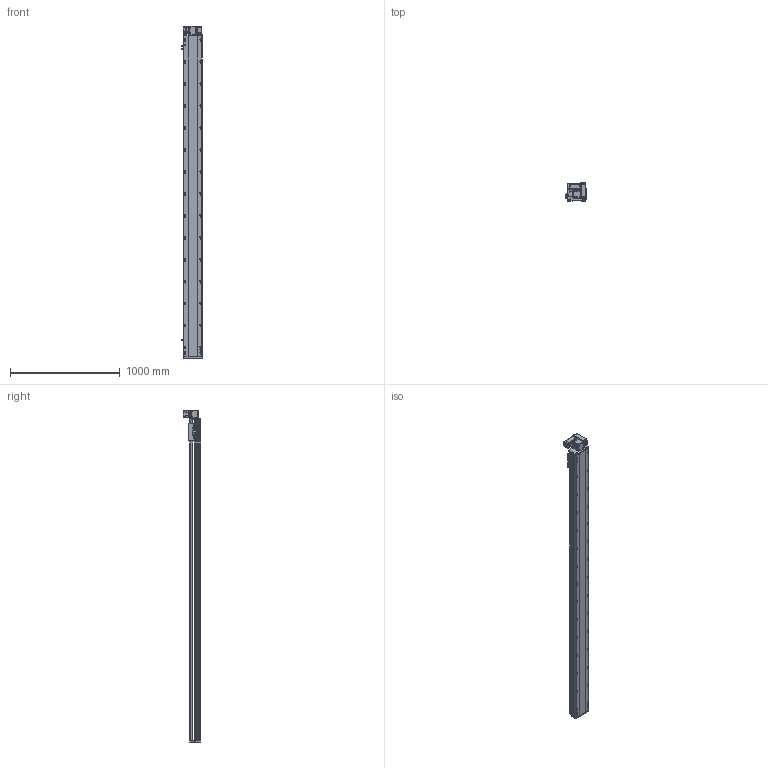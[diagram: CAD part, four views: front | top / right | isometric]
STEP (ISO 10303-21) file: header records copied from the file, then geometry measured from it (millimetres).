
FILE_DESCRIPTION (( 'STEP AP214' ), '1' );
FILE_NAME ('RTB17S-XX-2650-RW-M40-C4.STEP', '2025-12-11T09:14:50', ( '' ), ( '' ), 'SwSTEP 2.0', 'SolidWorks 2018', '' );
FILE_SCHEMA (( 'AUTOMOTIVE_DESIGN' ));
Length unit declared in the file: millimetre
Products named in the file (14): RTB17S-L-004佪裝蹟譫蟀諉釱^RTB17S-XX-XX-RW-M40-C4; RTB14-L-008-M20--萇儂啣^RTB17S-RW-々湍釱蚾饜-400W_RTB17S-XX-XX-RW-M40-C4; OMRON EE-SX672 传感器^RTB17S-XX-XX-RW-M40-C4; RTB17S-RW-々湍釱蚾饜-400W^RTB17S-XX-XX-RW-M40-C4; RTH13-BL-012覜茼え俋离^RTB17S-XX-XX-RW-M40-C4; 400W侜督萇儂^RTB17S-XX-XX-RW-M40-C4; RTB14-L-017P^RTB17S-RW-々湍釱蚾饜-400W_RTB17S-XX-XX-RW-M40-C4; RTB17S-L-001耜醱啣^RTB17S-XX-XX-RW-M40-C4; RMP17S-L-014-T20--々湍釱^RTB17S-RW-々湍釱蚾饜-400W_RTB17S-XX-XX-RW-M40-C4; RTB14-L-005P--轴承塑胶压盖^RTB17S-RW-皮带座装配-400W_RTB17S-XX-XX-RW-M40-C4; RTB17S-L-007奻裔^RTB17S-XX-XX-RW-M40-C4; RTB14-L-018P^RTB17S-RW-々湍釱蚾饜-400W_RTB17S-XX-XX-RW-M40-C4; RTB17S-XX-2650-RW-M40-C4; RTB17-R-011菁釱^RTB17S-XX-XX-RW-M40-C4
Assembly tree (16 placements, depth 3):
  RTB17S-XX-2650-RW-M40-C4
    RTB17-R-011菁釱^RTB17S-XX-XX-RW-M40-C4
    RTB17S-L-007奻裔^RTB17S-XX-XX-RW-M40-C4
    OMRON EE-SX672 传感器^RTB17S-XX-XX-RW-M40-C4  x3
    RTB17S-L-001耜醱啣^RTB17S-XX-XX-RW-M40-C4
    400W侜督萇儂^RTB17S-XX-XX-RW-M40-C4
    RTB17S-L-004佪裝蹟譫蟀諉釱^RTB17S-XX-XX-RW-M40-C4
    RTH13-BL-012覜茼え俋离^RTB17S-XX-XX-RW-M40-C4
    RTB17S-RW-々湍釱蚾饜-400W^RTB17S-XX-XX-RW-M40-C4
      RMP17S-L-014-T20--々湍釱^RTB17S-RW-々湍釱蚾饜-400W_RTB17S-XX-XX-RW-M40-C4
      RTB14-L-005P--轴承塑胶压盖^RTB17S-RW-皮带座装配-400W_RTB17S-XX-XX-RW-M40-C4
      RTB14-L-008-M20--萇儂啣^RTB17S-RW-々湍釱蚾饜-400W_RTB17S-XX-XX-RW-M40-C4
      RTB14-L-017P^RTB17S-RW-々湍釱蚾饜-400W_RTB17S-XX-XX-RW-M40-C4  x2
      RTB14-L-018P^RTB17S-RW-々湍釱蚾饜-400W_RTB17S-XX-XX-RW-M40-C4
Bounding box: 183.5 x 160.5 x 3022.5 mm (x, y, z)
Volume: 25824716.2 mm3; surface area: 2967194.2 mm2
Topology: 15 solids, 15 shells, 2349 faces, 6573 edges, 4293 vertices
Faces by surface type: plane 1086, cylinder 815, bspline 301, cone 139, torus 8
Entity records: 69545 total; most frequent: CARTESIAN_POINT 19778, ORIENTED_EDGE 9990, DIRECTION 9206, EDGE_CURVE 4995, VERTEX_POINT 3281, AXIS2_PLACEMENT_3D 3211, VECTOR 2784, LINE 2784
